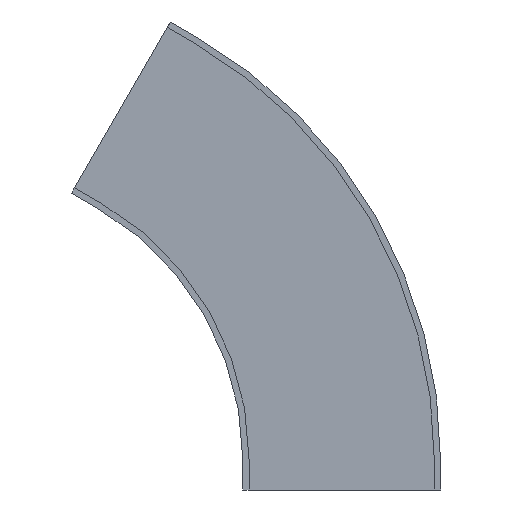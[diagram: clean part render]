
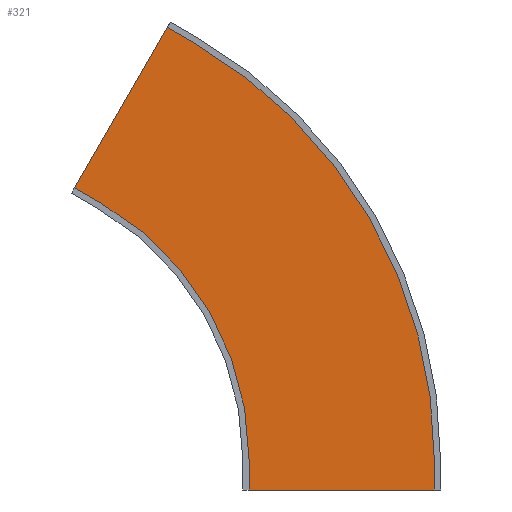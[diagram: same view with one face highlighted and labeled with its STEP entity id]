
A CAD part, front view. The second image highlights one B-rep face of the part: STEP entity #321.
In plain terms, the highlighted planar face has unit normal (0, -1, 0).
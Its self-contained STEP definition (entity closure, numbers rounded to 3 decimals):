
#57 = DIRECTION ( 'NONE',  ( -1., 0., 0. ) ) ;
#85 = DIRECTION ( 'NONE',  ( 0., 1., 0. ) ) ;
#87 = PLANE ( 'NONE',  #1862 ) ;
#218 = CARTESIAN_POINT ( 'NONE',  ( 487.6, -68., 844.548 ) ) ;
#321 = ADVANCED_FACE ( 'NONE', ( #1014 ), #87, .F. ) ;
#459 = CIRCLE ( 'NONE', #1916, 975.2 ) ;
#461 = LINE ( 'NONE', #1110, #468 ) ;
#464 = CIRCLE ( 'NONE', #1917, 1584.8 ) ;
#466 = LINE ( 'NONE', #1108, #470 ) ;
#467 = LINE ( 'NONE', #1109, #476 ) ;
#468 = VECTOR ( 'NONE', #1101, 1000. ) ;
#469 = LINE ( 'NONE', #1115, #472 ) ;
#470 = VECTOR ( 'NONE', #1114, 1000. ) ;
#471 = LINE ( 'NONE', #1117, #474 ) ;
#472 = VECTOR ( 'NONE', #1116, 1000. ) ;
#474 = VECTOR ( 'NONE', #1119, 1000. ) ;
#475 = LINE ( 'NONE', #1121, #478 ) ;
#476 = VECTOR ( 'NONE', #1120, 1000. ) ;
#478 = VECTOR ( 'NONE', #1122, 1000. ) ;
#729 = EDGE_CURVE ( 'NONE', #921, #924, #459, .T. ) ;
#732 = EDGE_CURVE ( 'NONE', #927, #918, #464, .T. ) ;
#733 = EDGE_CURVE ( 'NONE', #926, #927, #461, .T. ) ;
#734 = EDGE_CURVE ( 'NONE', #928, #926, #466, .T. ) ;
#735 = EDGE_CURVE ( 'NONE', #928, #921, #469, .T. ) ;
#736 = EDGE_CURVE ( 'NONE', #925, #924, #471, .T. ) ;
#737 = EDGE_CURVE ( 'NONE', #931, #925, #467, .T. ) ;
#738 = EDGE_CURVE ( 'NONE', #931, #918, #475, .T. ) ;
#918 = VERTEX_POINT ( 'NONE', #1266 ) ;
#921 = VERTEX_POINT ( 'NONE', #1269 ) ;
#924 = VERTEX_POINT ( 'NONE', #1264 ) ;
#925 = VERTEX_POINT ( 'NONE', #1272 ) ;
#926 = VERTEX_POINT ( 'NONE', #1273 ) ;
#927 = VERTEX_POINT ( 'NONE', #1274 ) ;
#928 = VERTEX_POINT ( 'NONE', #1275 ) ;
#931 = VERTEX_POINT ( 'NONE', #1278 ) ;
#1014 = FACE_OUTER_BOUND ( 'NONE', #1606, .T. ) ;
#1101 = DIRECTION ( 'NONE',  ( 0.866, 0., -0.5 ) ) ;
#1103 = CARTESIAN_POINT ( 'NONE',  ( 0., -68., 0. ) ) ;
#1104 = DIRECTION ( 'NONE',  ( 0., 1., 0. ) ) ;
#1105 = DIRECTION ( 'NONE',  ( -1., 0., 0. ) ) ;
#1108 = CARTESIAN_POINT ( 'NONE',  ( -86.603, -68., 50. ) ) ;
#1109 = CARTESIAN_POINT ( 'NONE',  ( 0., -68., -100. ) ) ;
#1110 = CARTESIAN_POINT ( 'NONE',  ( 705.797, -68., 1422.477 ) ) ;
#1111 = CARTESIAN_POINT ( 'NONE',  ( 0., -68., 0. ) ) ;
#1112 = DIRECTION ( 'NONE',  ( 0., 1., 0. ) ) ;
#1113 = DIRECTION ( 'NONE',  ( -1., 0., 0. ) ) ;
#1114 = DIRECTION ( 'NONE',  ( 0.5, 0., 0.866 ) ) ;
#1115 = CARTESIAN_POINT ( 'NONE',  ( 400.997, -68., 894.548 ) ) ;
#1116 = DIRECTION ( 'NONE',  ( 0.866, 0., -0.5 ) ) ;
#1117 = CARTESIAN_POINT ( 'NONE',  ( 975.2, -68., -100. ) ) ;
#1119 = DIRECTION ( 'NONE',  ( 0., 0., 1. ) ) ;
#1120 = DIRECTION ( 'NONE',  ( -1., 0., 0. ) ) ;
#1121 = CARTESIAN_POINT ( 'NONE',  ( 1584.8, -68., -100. ) ) ;
#1122 = DIRECTION ( 'NONE',  ( 0., 0., 1. ) ) ;
#1264 = CARTESIAN_POINT ( 'NONE',  ( 975.2, -68., 0. ) ) ;
#1266 = CARTESIAN_POINT ( 'NONE',  ( 1584.8, -68., 0. ) ) ;
#1269 = CARTESIAN_POINT ( 'NONE',  ( 487.6, -68., 844.548 ) ) ;
#1272 = CARTESIAN_POINT ( 'NONE',  ( 975.2, -68., -100. ) ) ;
#1273 = CARTESIAN_POINT ( 'NONE',  ( 705.797, -68., 1422.477 ) ) ;
#1274 = CARTESIAN_POINT ( 'NONE',  ( 792.4, -68., 1372.477 ) ) ;
#1275 = CARTESIAN_POINT ( 'NONE',  ( 400.997, -68., 894.548 ) ) ;
#1278 = CARTESIAN_POINT ( 'NONE',  ( 1584.8, -68., -100. ) ) ;
#1550 = ORIENTED_EDGE ( 'NONE', *, *, #738, .T. ) ;
#1551 = ORIENTED_EDGE ( 'NONE', *, *, #737, .F. ) ;
#1552 = ORIENTED_EDGE ( 'NONE', *, *, #736, .F. ) ;
#1553 = ORIENTED_EDGE ( 'NONE', *, *, #729, .T. ) ;
#1554 = ORIENTED_EDGE ( 'NONE', *, *, #735, .T. ) ;
#1555 = ORIENTED_EDGE ( 'NONE', *, *, #734, .F. ) ;
#1556 = ORIENTED_EDGE ( 'NONE', *, *, #733, .F. ) ;
#1557 = ORIENTED_EDGE ( 'NONE', *, *, #732, .F. ) ;
#1606 = EDGE_LOOP ( 'NONE', ( #1557, #1556, #1555, #1554, #1553, #1552, #1551, #1550 ) ) ;
#1862 = AXIS2_PLACEMENT_3D ( 'NONE', #218, #85, #57 ) ;
#1916 = AXIS2_PLACEMENT_3D ( 'NONE', #1103, #1104, #1105 ) ;
#1917 = AXIS2_PLACEMENT_3D ( 'NONE', #1111, #1112, #1113 ) ;
